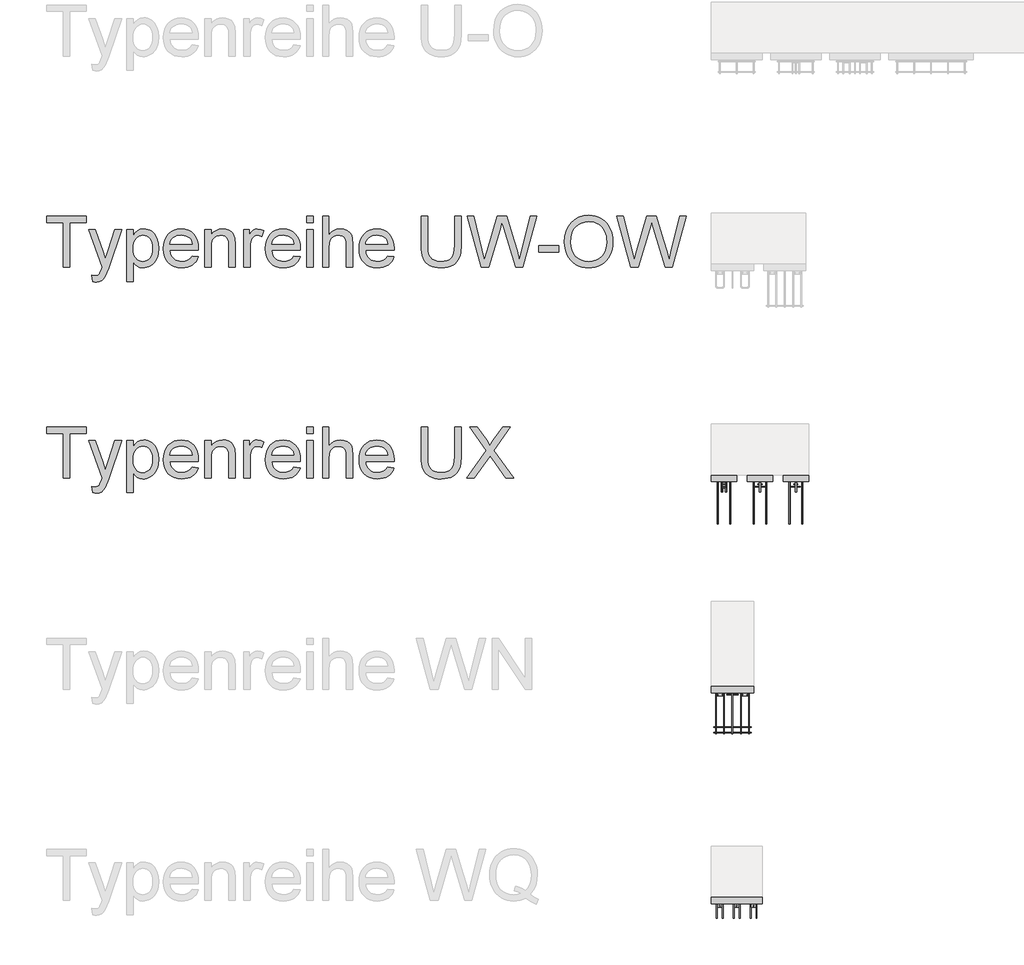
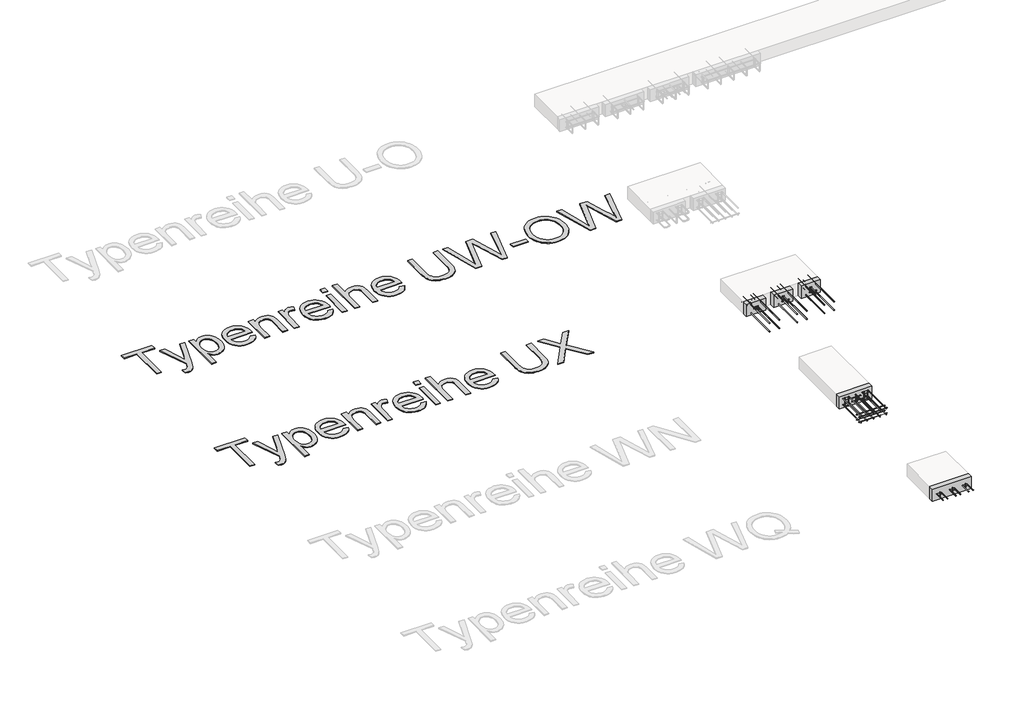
# Not in any storey, part 2 of 7: 7 proxies.
"""IFC4 building model written with IfcOpenShell, lengths in millimetres."""

from ifc_helpers import new_model, si_unit, origin, origin_with_axes, place, context, project, spatial, polyline, outline, extrude, transform, mapped, element, save
from components import uxh_c58978f4, uxq_d90d2bab, uxv_ace92e51, wn_ae22b578, sb_80aecc08

model = new_model("IFC4")

# Units and contexts
model_context = context("Model", 3, world=origin())
ifc_project = project(units=[si_unit("LENGTHUNIT", "METRE", prefix="MILLI")], contexts=[model_context])

# Site, building
site = spatial("IfcSite", under=ifc_project)
building = spatial("IfcBuilding", under=site)

# Proxies
placement = place(None, origin())
element("IfcBuildingElementProxy", 1, Name="600mm Arial", ObjectType="600mm Arial", at=placement, inside=building, context=model_context, shape_type="SweptSolid", body=[
    extrude(outline(polyline([(2216.6089188, 9553.4767112), (2216.6089188, 10080.8723395), (2018.8355582, 10080.8723395), (2018.8355582, 10156.2145721), (2489.724512, 10156.2145721), (2489.724512, 10080.8723395), (2291.9511514, 10080.8723395), (2291.9511514, 9553.4767112), (2216.6089188, 9553.4767112)])), origin_with_axes(), (0.0, 0.0, 1.0), 10.0),
    extrude(outline(polyline([(2565.0667446, 9383.9566879), (2555.6489655, 9456.5030173), (2593.908693, 9449.8811414), (2614.0318381, 9451.9596747), (2629.6668229, 9458.1952745), (2641.843717, 9468.1464825), (2651.5925899, 9481.3718402), (2672.1939816, 9536.8484451), (2678.0800935, 9555.095392), (2517.9778492, 9996.1123278), (2597.4403602, 9996.1123278), (2682.3475247, 9750.3671551), (2711.9252371, 9652.0690859), (2741.5029495, 9738.8892368), (2828.7645587, 9996.1123278), (2907.6384585, 9996.1123278), (2753.5694789, 9542.8817098), (2713.5439178, 9444.5836407), (2693.0528907, 9413.2033065), (2669.8395368, 9391.4614806), (2642.8737866, 9378.7695517), (2611.1255704, 9374.5389088), (2589.3101681, 9376.8933535), (2565.0667446, 9383.9566879)])), origin_with_axes(), (0.0, 0.0, 1.0), 10.0),
    extrude(outline(polyline([(2970.0312449, 9383.9566879), (2970.0312449, 9996.1123278), (3045.3734775, 9996.1123278), (3045.3734775, 9922.2416232), (3069.9479948, 9958.6803348), (3097.465568, 9984.707986), (3129.544878, 10000.3245767), (3167.8046055, 10005.5301069), (3194.080577, 10003.709091), (3218.7562618, 9998.2460434), (3241.83166, 9989.140964), (3263.3067714, 9976.3938529), (3282.7125467, 9960.3358038), (3299.5799362, 9941.2979105), (3313.9089399, 9919.2801731), (3325.6995578, 9894.2825916), (3341.4816954, 9838.7691985), (3346.7424079, 9778.1790339), (3340.8011137, 9713.7445024), (3333.3744959, 9684.079418), (3322.9772311, 9656.1157879), (3309.7518733, 9630.5847774), (3293.840977, 9608.2175521), (3275.2445422, 9589.014112), (3253.9625688, 9572.974457), (3231.0389219, 9560.3239149), (3207.5174669, 9551.2878134), (3183.3982036, 9545.8661525), (3158.681132, 9544.0589322), (3124.0450422, 9548.8965804), (3093.1245605, 9563.4095251), (3066.6554509, 9585.3168979), (3045.3734775, 9612.3378305), (3045.3734775, 9383.9566879), (2970.0312449, 9383.9566879)]), holes=[polyline([(3045.3734775, 9771.2628524), (3047.410624, 9734.9528995), (3053.5220637, 9703.7197181), (3063.7077964, 9677.5633082), (3077.9678223, 9656.4836699), (3095.1341159, 9640.2600739), (3114.0386519, 9628.671791), (3134.6814303, 9621.7188213), (3157.0624512, 9619.4011648), (3179.7653689, 9621.8015948), (3200.7852264, 9629.0028848), (3220.1220237, 9641.0050349), (3237.775761, 9657.8080451), (3252.4864423, 9679.6510385), (3262.9940717, 9706.7731386), (3269.2986494, 9739.1743453), (3271.4001753, 9776.8546587), (3269.3492332, 9812.8519119), (3263.1964068, 9844.029911), (3252.9416962, 9870.388656), (3238.5851014, 9891.9281468), (3221.377421, 9908.6667776), (3202.569454, 9920.6229424), (3182.1612004, 9927.7966413), (3160.15266, 9930.1878743), (3138.2130975, 9927.64489), (3117.570319, 9920.0159371), (3098.2243246, 9907.3010157), (3080.1751142, 9889.5001256), (3064.9493982, 9866.8523903), (3054.0738867, 9839.596933), (3047.5485798, 9807.7337537), (3045.3734775, 9771.2628524)])]), origin_with_axes(), (0.0, 0.0, 1.0), 10.0),
    extrude(outline(polyline([(3741.4062124, 9685.3256183), (3815.276917, 9675.9078392), (3803.9507501, 9646.3209298), (3788.6606546, 9620.2472934), (3769.4066307, 9597.68693), (3746.1886783, 9578.6398397), (3719.2459207, 9563.5106927), (3688.8174812, 9552.704159), (3654.9033597, 9546.2202389), (3617.5035564, 9544.0589322), (3570.7549519, 9547.7883359), (3529.101513, 9558.9765471), (3492.5432397, 9577.6235657), (3461.080132, 9603.7293918), (3435.7790478, 9636.5674584), (3417.7068448, 9675.4111985), (3406.863523, 9720.2606123), (3403.2490824, 9771.1156996), (3406.9003112, 9823.6952337), (3417.8539976, 9870.0391681), (3436.1101416, 9910.1475026), (3461.6687432, 9944.0202373), (3493.0490774, 9970.9308053), (3528.7704192, 9990.1526395), (3568.8327684, 10001.6857401), (3613.2361252, 10005.5301069), (3656.2093408, 10001.6949371), (3695.0714751, 9990.1894277), (3729.822528, 9971.0135787), (3760.4624997, 9944.1673901), (3785.4738769, 9910.3682318), (3803.3391463, 9870.3334737), (3814.0583079, 9824.0631157), (3817.6313618, 9771.557158), (3817.1899034, 9751.2500718), (3478.591315, 9751.2500718), (3482.9553152, 9721.1849158), (3491.6327317, 9694.853762), (3504.6235647, 9672.2566104), (3521.927814, 9653.3934611), (3542.5889866, 9638.5218315), (3565.6505892, 9627.8992389), (3591.1126218, 9621.5256833), (3618.9750844, 9619.4011648), (3659.0742218, 9623.3375021), (3692.845789, 9635.1465142), (3720.2897858, 9655.5639649), (3741.4062124, 9685.3256183)]), holes=[polyline([(3478.591315, 9826.5923045), (3742.2891292, 9826.5923045), (3732.0987979, 9866.3971363), (3723.3340094, 9882.0505152), (3712.1228056, 9894.8712028), (3691.5765961, 9910.3222466), (3668.1976953, 9921.3587064), (3641.9861032, 9927.9805823), (3612.9418197, 9930.1878743), (3586.4497175, 9928.4266392), (3562.1557102, 9923.1429341), (3540.0597979, 9914.3367588), (3520.1619805, 9902.0081135), (3503.4647364, 9886.7272151), (3490.9705442, 9869.0642808), (3482.6794037, 9849.0193106), (3478.591315, 9826.5923045)])]), origin_with_axes(), (0.0, 0.0, 1.0), 10.0),
    extrude(outline(polyline([(3892.9735944, 9553.4767112), (3892.9735944, 9996.1123278), (3968.315827, 9996.1123278), (3968.315827, 9934.3081526), (3994.490631, 9965.4677576), (4025.9261474, 9987.7246183), (4062.6223765, 10001.0787348), (4104.579318, 10005.5301069), (4141.7170054, 10001.9432575), (4175.7276959, 9991.1827091), (4204.0913977, 9974.5912311), (4224.2881192, 9953.5115928), (4237.9917236, 9927.9989764), (4246.8760737, 9898.1085643), (4250.8491993, 9825.2679293), (4250.8491993, 9553.4767112), (4175.5069667, 9553.4767112), (4175.5069667, 9815.1143862), (4173.3364629, 9854.0730895), (4166.8249516, 9881.7746037), (4154.8136044, 9901.6218374), (4136.1435932, 9917.0176989), (4112.2128694, 9926.8953304), (4084.4193847, 9930.1878743), (4061.5417231, 9928.3392673), (4040.2919394, 9922.7934462), (4020.6700334, 9913.5504111), (4002.6760053, 9900.6101619), (3987.6434273, 9882.5011707), (3976.9058716, 9857.7519094), (3970.4633381, 9826.3623782), (3968.315827, 9788.332577), (3968.315827, 9553.4767112), (3892.9735944, 9553.4767112)])), origin_with_axes(), (0.0, 0.0, 1.0), 10.0),
    extrude(outline(polyline([(4354.4447691, 9553.4767112), (4354.4447691, 9996.1123278), (4420.3692227, 9996.1123278), (4420.3692227, 9930.6293327), (4444.7230107, 9968.5947546), (4467.1638125, 9990.9619799), (4489.6781906, 10001.8880752), (4514.2527078, 10005.5301069), (4551.7766713, 9999.7175714), (4589.889246, 9982.2799648), (4564.7261176, 9914.7368305), (4538.2386139, 9926.3251133), (4511.7511103, 9930.1878743), (4489.2551263, 9926.4722661), (4469.1503752, 9915.3254417), (4452.9083851, 9897.5935295), (4442.000684, 9874.1226582), (4432.8404223, 9832.036958), (4429.7870017, 9786.125285), (4429.7870017, 9553.4767112), (4354.4447691, 9553.4767112)])), origin_with_axes(), (0.0, 0.0, 1.0), 10.0),
    extrude(outline(polyline([(4946.8819342, 9685.3256183), (5020.7526388, 9675.9078392), (5009.4264719, 9646.3209298), (4994.1363764, 9620.2472934), (4974.8823525, 9597.68693), (4951.6644001, 9578.6398397), (4924.7216425, 9563.5106927), (4894.293203, 9552.704159), (4860.3790815, 9546.2202389), (4822.9792782, 9544.0589322), (4776.2306737, 9547.7883359), (4734.5772347, 9558.9765471), (4698.0189615, 9577.6235657), (4666.5558538, 9603.7293918), (4641.2547696, 9636.5674584), (4623.1825666, 9675.4111985), (4612.3392448, 9720.2606123), (4608.7248042, 9771.1156996), (4612.376033, 9823.6952337), (4623.3297194, 9870.0391681), (4641.5858634, 9910.1475026), (4667.144465, 9944.0202373), (4698.5247992, 9970.9308053), (4734.246141, 9990.1526395), (4774.3084902, 10001.6857401), (4818.711847, 10005.5301069), (4861.6850626, 10001.6949371), (4900.5471969, 9990.1894277), (4935.2982498, 9971.0135787), (4965.9382215, 9944.1673901), (4990.9495987, 9910.3682318), (5008.8148681, 9870.3334737), (5019.5340297, 9824.0631157), (5023.1070836, 9771.557158), (5022.6656252, 9751.2500718), (4684.0670368, 9751.2500718), (4688.431037, 9721.1849158), (4697.1084535, 9694.853762), (4710.0992865, 9672.2566104), (4727.4035358, 9653.3934611), (4748.0647084, 9638.5218315), (4771.126311, 9627.8992389), (4796.5883436, 9621.5256833), (4824.4508062, 9619.4011648), (4864.5499436, 9623.3375021), (4898.3215108, 9635.1465142), (4925.7655076, 9655.5639649), (4946.8819342, 9685.3256183)]), holes=[polyline([(4684.0670368, 9826.5923045), (4947.764851, 9826.5923045), (4937.5745197, 9866.3971363), (4928.8097312, 9882.0505152), (4917.5985273, 9894.8712028), (4897.0523179, 9910.3222466), (4873.6734171, 9921.3587064), (4847.461825, 9927.9805823), (4818.4175414, 9930.1878743), (4791.9254393, 9928.4266392), (4767.631432, 9923.1429341), (4745.5355197, 9914.3367588), (4725.6377023, 9902.0081135), (4708.9404582, 9886.7272151), (4696.4462659, 9869.0642808), (4688.1551255, 9849.0193106), (4684.0670368, 9826.5923045)])]), origin_with_axes(), (0.0, 0.0, 1.0), 10.0),
    extrude(outline(polyline([(5098.4493162, 10080.8723395), (5098.4493162, 10156.2145721), (5173.7915488, 10156.2145721), (5173.7915488, 10080.8723395), (5098.4493162, 10080.8723395)])), origin_with_axes(), (0.0, 0.0, 1.0), 10.0),
    extrude(outline(polyline([(5098.4493162, 9553.4767112), (5098.4493162, 9996.1123278), (5173.7915488, 9996.1123278), (5173.7915488, 9553.4767112), (5098.4493162, 9553.4767112)])), origin_with_axes(), (0.0, 0.0, 1.0), 10.0),
    extrude(outline(polyline([(5286.8048977, 9553.4767112), (5286.8048977, 10156.2145721), (5362.1471303, 10156.2145721), (5362.1471303, 9934.6024582), (5389.8210534, 9965.6333045), (5420.8978849, 9987.7981947), (5455.3776249, 10001.0971289), (5493.2602734, 10005.5301069), (5538.7672762, 10000.6924587), (5577.8731323, 9986.179514), (5608.6648553, 9963.131707), (5629.2294588, 9932.6894719), (5640.8177417, 9890.861289), (5644.6805026, 9833.6556388), (5644.6805026, 9553.4767112), (5569.33827, 9553.4767112), (5569.33827, 9825.8565405), (5567.8391509, 9851.2955804), (5563.3417935, 9873.0190122), (5555.8461978, 9891.0268359), (5545.3523639, 9905.3190514), (5532.1086121, 9916.1991614), (5516.3632627, 9923.9706686), (5498.1163157, 9928.6335729), (5477.3677712, 9930.1878743), (5445.5275845, 9925.9940195), (5415.6371724, 9913.4124553), (5390.8787141, 9893.6571922), (5374.434389, 9867.9422407), (5365.218945, 9833.7660034), (5362.1471303, 9788.6268826), (5362.1471303, 9553.4767112), (5286.8048977, 9553.4767112)])), origin_with_axes(), (0.0, 0.0, 1.0), 10.0),
    extrude(outline(polyline([(6058.1798652, 9685.3256183), (6132.0505698, 9675.9078392), (6120.7244029, 9646.3209298), (6105.4343075, 9620.2472934), (6086.1802836, 9597.68693), (6062.9623311, 9578.6398397), (6036.0195735, 9563.5106927), (6005.591134, 9552.704159), (5971.6770126, 9546.2202389), (5934.2772092, 9544.0589322), (5887.5286047, 9547.7883359), (5845.8751658, 9558.9765471), (5809.3168925, 9577.6235657), (5777.8537849, 9603.7293918), (5752.5527007, 9636.5674584), (5734.4804976, 9675.4111985), (5723.6371758, 9720.2606123), (5720.0227352, 9771.1156996), (5723.673964, 9823.6952337), (5734.6276504, 9870.0391681), (5752.8837944, 9910.1475026), (5778.4423961, 9944.0202373), (5809.8227303, 9970.9308053), (5845.544072, 9990.1526395), (5885.6064213, 10001.6857401), (5930.0097781, 10005.5301069), (5972.9829936, 10001.6949371), (6011.8451279, 9990.1894277), (6046.5961809, 9971.0135787), (6077.2361525, 9944.1673901), (6102.2475297, 9910.3682318), (6120.1127991, 9870.3334737), (6130.8319607, 9824.0631157), (6134.4050146, 9771.557158), (6133.9635562, 9751.2500718), (5795.3649678, 9751.2500718), (5799.728968, 9721.1849158), (5808.4063846, 9694.853762), (5821.3972175, 9672.2566104), (5838.7014669, 9653.3934611), (5859.3626394, 9638.5218315), (5882.424242, 9627.8992389), (5907.8862746, 9621.5256833), (5935.7487372, 9619.4011648), (5975.8478747, 9623.3375021), (6009.6194418, 9635.1465142), (6037.0634387, 9655.5639649), (6058.1798652, 9685.3256183)]), holes=[polyline([(5795.3649678, 9826.5923045), (6059.062782, 9826.5923045), (6048.8724507, 9866.3971363), (6040.1076622, 9882.0505152), (6028.8964584, 9894.8712028), (6008.3502489, 9910.3222466), (5984.9713482, 9921.3587064), (5958.759756, 9927.9805823), (5929.7154725, 9930.1878743), (5903.2233703, 9928.4266392), (5878.929363, 9923.1429341), (5856.8334507, 9914.3367588), (5836.9356333, 9902.0081135), (5820.2383892, 9886.7272151), (5807.744197, 9869.0642808), (5799.4530565, 9849.0193106), (5795.3649678, 9826.5923045)])]), origin_with_axes(), (0.0, 0.0, 1.0), 10.0),
    extrude(outline(polyline([(6850.1562244, 10156.2145721), (6925.498457, 10156.2145721), (6925.498457, 9808.4925103), (6920.3848973, 9727.0618307), (6913.9929476, 9693.3684384), (6905.0442181, 9664.3563446), (6892.7661565, 9638.9265017), (6876.3862107, 9615.9798622), (6855.9043806, 9595.5164262), (6831.3206663, 9577.5361937), (6802.6074765, 9562.8898918), (6769.7372203, 9552.4282475), (6732.7098975, 9546.151261), (6691.5255081, 9544.0589322), (6651.3573927, 9545.879948), (6615.0244472, 9551.3429957), (6582.5266714, 9560.448075), (6553.8640655, 9573.1951862), (6529.0320308, 9589.3957895), (6508.0259689, 9608.8613456), (6490.8458797, 9631.5918544), (6477.4917633, 9657.5873159), (6467.4807745, 9687.7398439), (6460.3300682, 9722.9415523), (6456.0396445, 9763.1924411), (6454.6095032, 9808.4925103), (6454.6095032, 10156.2145721), (6529.9517358, 10156.2145721), (6529.9517358, 9811.1412607), (6533.667344, 9743.4325794), (6544.8141684, 9696.2885018), (6553.5789569, 9678.910676), (6565.0108899, 9663.6389747), (6579.1099674, 9650.4733978), (6595.8761893, 9639.4139453), (6636.1224796, 9624.4043599), (6684.4621738, 9619.4011648), (6725.986854, 9621.8751712), (6761.0919934, 9629.2971904), (6789.777592, 9641.6672225), (6812.0436497, 9658.9852674), (6828.7179011, 9683.3390555), (6840.6280807, 9716.8163171), (6847.7741885, 9759.4170521), (6850.1562244, 9811.1412607), (6850.1562244, 10156.2145721)])), origin_with_axes(), (0.0, 0.0, 1.0), 10.0),
    extrude(outline(polyline([(7165.2103651, 9553.4767112), (7000.8406896, 10156.2145721), (7078.537367, 10156.2145721), (7173.8923802, 9760.0792397), (7203.3229398, 9637.7952645), (7234.8136386, 9745.9525711), (7354.3017106, 10156.2145721), (7466.2849899, 10156.2145721), (7553.1051408, 9858.8187672), (7590.2980105, 9748.4541687), (7617.7052191, 9637.7952645), (7646.252862, 9756.5475726), (7742.4907919, 10156.2145721), (7820.1874693, 10156.2145721), (7655.670641, 9553.4767112), (7575.1780605, 9553.4767112), (7430.6740128, 10018.4795531), (7410.5140795, 10083.3739371), (7387.8525486, 10005.2358013), (7256.1507943, 9553.4767112), (7165.2103651, 9553.4767112)])), origin_with_axes(), (0.0, 0.0, 1.0), 10.0),
    extrude(outline(polyline([(7848.4408065, 9732.4145137), (7848.4408065, 9807.7567463), (8083.8852834, 9807.7567463), (8083.8852834, 9732.4145137), (7848.4408065, 9732.4145137)])), origin_with_axes(), (0.0, 0.0, 1.0), 10.0),
    extrude(outline(polyline([(8149.809737, 9846.8993906), (8154.8313262, 9917.597113), (8169.8960939, 9980.1830374), (8195.0040401, 10034.6571639), (8211.3242051, 10058.8523028), (8230.1551647, 10081.0194923), (8273.2433434, 10118.0376181), (8322.1624517, 10144.4791365), (8376.9124896, 10160.3440475), (8437.4934572, 10165.6323512), (8478.0432501, 10163.1491477), (8516.551298, 10155.6995373), (8553.0176007, 10143.28352), (8587.4421584, 10125.9010957), (8618.8592808, 10104.0764964), (8646.3032777, 10078.3339538), (8669.774149, 10048.6734679), (8689.2718947, 10015.0950388), (8704.5941798, 9978.3620216), (8715.5386692, 9939.2377714), (8722.1053628, 9897.7222882), (8724.2942606, 9853.8155721), (8721.9903996, 9809.3294418), (8715.0788167, 9767.2529386), (8703.5595117, 9727.5860625), (8687.4324847, 9690.3288134), (8667.0794133, 9656.4652758), (8642.8819751, 9626.9795339), (8614.84017, 9601.8715877), (8582.9539981, 9581.1414373), (8548.4788566, 9564.9178413), (8512.6701429, 9553.3295584), (8475.527857, 9546.3765887), (8437.0519988, 9544.0589322), (8395.794033, 9546.6203105), (8356.7801475, 9554.3044457), (8320.010342, 9567.1113377), (8285.4846168, 9585.0409864), (8254.1042826, 9607.3990147), (8226.7706504, 9633.4910452), (8203.4837201, 9663.3170779), (8184.2434917, 9696.877113), (8169.178724, 9732.8237824), (8158.4181757, 9769.8097185), (8151.9618466, 9807.8349212), (8149.809737, 9846.8993906)]), holes=[polyline([(8225.1519696, 9846.1636266), (8228.9181615, 9796.2144487), (8240.2167373, 9751.8754712), (8259.0476969, 9713.1466942), (8285.4110404, 9680.0281176), (8317.4581607, 9653.5038257), (8353.3404508, 9634.557903), (8393.0579107, 9623.1903493), (8436.6105404, 9619.4011648), (8480.9081312, 9623.2271375), (8521.0946406, 9634.7050558), (8557.1700688, 9653.8349195), (8589.1344156, 9680.6167288), (8615.304621, 9714.4342812), (8633.9976249, 9754.6713744), (8645.2134273, 9801.3280084), (8648.952028, 9854.4041833), (8647.3517413, 9888.8839233), (8642.5508813, 9921.101189), (8634.5494479, 9951.0559805), (8623.3474412, 9978.7482977), (8609.0690212, 10003.8148571), (8591.8383483, 10025.8923753), (8571.6554223, 10044.9808524), (8548.5202433, 10061.0802882), (8523.1501813, 10073.859589), (8496.2626059, 10082.987661), (8467.8575174, 10088.4645042), (8437.9349156, 10090.2901186), (8395.8952006, 10086.772247), (8356.8905121, 10076.2186323), (8320.92085, 10058.6292744), (8287.9862144, 10034.0041733), (8260.4962323, 10001.1569097), (8240.8605308, 9958.901064), (8229.0791099, 9907.2366363), (8225.1519696, 9846.1636266)])]), origin_with_axes(), (0.0, 0.0, 1.0), 10.0),
    extrude(outline(polyline([(8935.7528315, 9553.4767112), (8771.383156, 10156.2145721), (8849.0798334, 10156.2145721), (8944.4348466, 9760.0792397), (8973.8654062, 9637.7952645), (9005.356105, 9745.9525711), (9124.844177, 10156.2145721), (9236.8274563, 10156.2145721), (9323.6476072, 9858.8187672), (9360.8404769, 9748.4541687), (9388.2476855, 9637.7952645), (9416.7953284, 9756.5475726), (9513.0332583, 10156.2145721), (9590.7299357, 10156.2145721), (9426.2131074, 9553.4767112), (9345.7205269, 9553.4767112), (9201.2164792, 10018.4795531), (9181.0565459, 10083.3739371), (9158.3950149, 10005.2358013), (9026.6932607, 9553.4767112), (8935.7528315, 9553.4767112)])), origin_with_axes(), (0.0, 0.0, 1.0), 10.0),
])
element("IfcBuildingElementProxy", 2, Name="600mm Arial", ObjectType="600mm Arial", at=placement, inside=building, context=model_context, shape_type="SweptSolid", body=[
    extrude(outline(polyline([(2216.6089188, 7053.4767112), (2216.6089188, 7580.8723395), (2018.8355582, 7580.8723395), (2018.8355582, 7656.2145721), (2489.724512, 7656.2145721), (2489.724512, 7580.8723395), (2291.9511514, 7580.8723395), (2291.9511514, 7053.4767112), (2216.6089188, 7053.4767112)])), origin_with_axes(), (0.0, 0.0, 1.0), 10.0),
    extrude(outline(polyline([(2565.0667446, 6883.9566879), (2555.6489655, 6956.5030173), (2593.908693, 6949.8811414), (2614.0318381, 6951.9596747), (2629.6668229, 6958.1952745), (2641.843717, 6968.1464825), (2651.5925899, 6981.3718402), (2672.1939816, 7036.8484451), (2678.0800935, 7055.095392), (2517.9778492, 7496.1123278), (2597.4403602, 7496.1123278), (2682.3475247, 7250.3671551), (2711.9252371, 7152.0690859), (2741.5029495, 7238.8892368), (2828.7645587, 7496.1123278), (2907.6384585, 7496.1123278), (2753.5694789, 7042.8817098), (2713.5439178, 6944.5836407), (2693.0528907, 6913.2033065), (2669.8395368, 6891.4614806), (2642.8737866, 6878.7695517), (2611.1255704, 6874.5389088), (2589.3101681, 6876.8933535), (2565.0667446, 6883.9566879)])), origin_with_axes(), (0.0, 0.0, 1.0), 10.0),
    extrude(outline(polyline([(2970.0312449, 6883.9566879), (2970.0312449, 7496.1123278), (3045.3734775, 7496.1123278), (3045.3734775, 7422.2416232), (3069.9479948, 7458.6803348), (3097.465568, 7484.707986), (3129.544878, 7500.3245767), (3167.8046055, 7505.5301069), (3194.080577, 7503.709091), (3218.7562618, 7498.2460434), (3241.83166, 7489.140964), (3263.3067714, 7476.3938529), (3282.7125467, 7460.3358038), (3299.5799362, 7441.2979105), (3313.9089399, 7419.2801731), (3325.6995578, 7394.2825916), (3341.4816954, 7338.7691985), (3346.7424079, 7278.1790339), (3340.8011137, 7213.7445024), (3333.3744959, 7184.079418), (3322.9772311, 7156.1157879), (3309.7518733, 7130.5847774), (3293.840977, 7108.2175521), (3275.2445422, 7089.014112), (3253.9625688, 7072.974457), (3231.0389219, 7060.3239149), (3207.5174669, 7051.2878134), (3183.3982036, 7045.8661525), (3158.681132, 7044.0589322), (3124.0450422, 7048.8965804), (3093.1245605, 7063.4095251), (3066.6554509, 7085.3168979), (3045.3734775, 7112.3378305), (3045.3734775, 6883.9566879), (2970.0312449, 6883.9566879)]), holes=[polyline([(3045.3734775, 7271.2628524), (3047.410624, 7234.9528995), (3053.5220637, 7203.7197181), (3063.7077964, 7177.5633082), (3077.9678223, 7156.4836699), (3095.1341159, 7140.2600739), (3114.0386519, 7128.671791), (3134.6814303, 7121.7188213), (3157.0624512, 7119.4011648), (3179.7653689, 7121.8015948), (3200.7852264, 7129.0028848), (3220.1220237, 7141.0050349), (3237.775761, 7157.8080451), (3252.4864423, 7179.6510385), (3262.9940717, 7206.7731386), (3269.2986494, 7239.1743453), (3271.4001753, 7276.8546587), (3269.3492332, 7312.8519119), (3263.1964068, 7344.029911), (3252.9416962, 7370.388656), (3238.5851014, 7391.9281468), (3221.377421, 7408.6667776), (3202.569454, 7420.6229424), (3182.1612004, 7427.7966413), (3160.15266, 7430.1878743), (3138.2130975, 7427.64489), (3117.570319, 7420.0159371), (3098.2243246, 7407.3010157), (3080.1751142, 7389.5001256), (3064.9493982, 7366.8523903), (3054.0738867, 7339.596933), (3047.5485798, 7307.7337537), (3045.3734775, 7271.2628524)])]), origin_with_axes(), (0.0, 0.0, 1.0), 10.0),
    extrude(outline(polyline([(3741.4062124, 7185.3256183), (3815.276917, 7175.9078392), (3803.9507501, 7146.3209298), (3788.6606546, 7120.2472934), (3769.4066307, 7097.68693), (3746.1886783, 7078.6398397), (3719.2459207, 7063.5106927), (3688.8174812, 7052.704159), (3654.9033597, 7046.2202389), (3617.5035564, 7044.0589322), (3570.7549519, 7047.7883359), (3529.101513, 7058.9765471), (3492.5432397, 7077.6235657), (3461.080132, 7103.7293918), (3435.7790478, 7136.5674584), (3417.7068448, 7175.4111985), (3406.863523, 7220.2606123), (3403.2490824, 7271.1156996), (3406.9003112, 7323.6952337), (3417.8539976, 7370.0391681), (3436.1101416, 7410.1475026), (3461.6687432, 7444.0202373), (3493.0490774, 7470.9308053), (3528.7704192, 7490.1526395), (3568.8327684, 7501.6857401), (3613.2361252, 7505.5301069), (3656.2093408, 7501.6949371), (3695.0714751, 7490.1894277), (3729.822528, 7471.0135787), (3760.4624997, 7444.1673901), (3785.4738769, 7410.3682318), (3803.3391463, 7370.3334737), (3814.0583079, 7324.0631157), (3817.6313618, 7271.557158), (3817.1899034, 7251.2500718), (3478.591315, 7251.2500718), (3482.9553152, 7221.1849158), (3491.6327317, 7194.853762), (3504.6235647, 7172.2566104), (3521.927814, 7153.3934611), (3542.5889866, 7138.5218315), (3565.6505892, 7127.8992389), (3591.1126218, 7121.5256833), (3618.9750844, 7119.4011648), (3659.0742218, 7123.3375021), (3692.845789, 7135.1465142), (3720.2897858, 7155.5639649), (3741.4062124, 7185.3256183)]), holes=[polyline([(3478.591315, 7326.5923045), (3742.2891292, 7326.5923045), (3732.0987979, 7366.3971363), (3723.3340094, 7382.0505152), (3712.1228056, 7394.8712028), (3691.5765961, 7410.3222466), (3668.1976953, 7421.3587064), (3641.9861032, 7427.9805823), (3612.9418197, 7430.1878743), (3586.4497175, 7428.4266392), (3562.1557102, 7423.1429341), (3540.0597979, 7414.3367588), (3520.1619805, 7402.0081135), (3503.4647364, 7386.7272151), (3490.9705442, 7369.0642808), (3482.6794037, 7349.0193106), (3478.591315, 7326.5923045)])]), origin_with_axes(), (0.0, 0.0, 1.0), 10.0),
    extrude(outline(polyline([(3892.9735944, 7053.4767112), (3892.9735944, 7496.1123278), (3968.315827, 7496.1123278), (3968.315827, 7434.3081526), (3994.490631, 7465.4677576), (4025.9261474, 7487.7246183), (4062.6223765, 7501.0787348), (4104.579318, 7505.5301069), (4141.7170054, 7501.9432575), (4175.7276959, 7491.1827091), (4204.0913977, 7474.5912311), (4224.2881192, 7453.5115928), (4237.9917236, 7427.9989764), (4246.8760737, 7398.1085643), (4250.8491993, 7325.2679293), (4250.8491993, 7053.4767112), (4175.5069667, 7053.4767112), (4175.5069667, 7315.1143862), (4173.3364629, 7354.0730895), (4166.8249516, 7381.7746037), (4154.8136044, 7401.6218374), (4136.1435932, 7417.0176989), (4112.2128694, 7426.8953304), (4084.4193847, 7430.1878743), (4061.5417231, 7428.3392673), (4040.2919394, 7422.7934462), (4020.6700334, 7413.5504111), (4002.6760053, 7400.6101619), (3987.6434273, 7382.5011707), (3976.9058716, 7357.7519094), (3970.4633381, 7326.3623782), (3968.315827, 7288.332577), (3968.315827, 7053.4767112), (3892.9735944, 7053.4767112)])), origin_with_axes(), (0.0, 0.0, 1.0), 10.0),
    extrude(outline(polyline([(4354.4447691, 7053.4767112), (4354.4447691, 7496.1123278), (4420.3692227, 7496.1123278), (4420.3692227, 7430.6293327), (4444.7230107, 7468.5947546), (4467.1638125, 7490.9619799), (4489.6781906, 7501.8880752), (4514.2527078, 7505.5301069), (4551.7766713, 7499.7175714), (4589.889246, 7482.2799648), (4564.7261176, 7414.7368305), (4538.2386139, 7426.3251133), (4511.7511103, 7430.1878743), (4489.2551263, 7426.4722661), (4469.1503752, 7415.3254417), (4452.9083851, 7397.5935295), (4442.000684, 7374.1226582), (4432.8404223, 7332.036958), (4429.7870017, 7286.125285), (4429.7870017, 7053.4767112), (4354.4447691, 7053.4767112)])), origin_with_axes(), (0.0, 0.0, 1.0), 10.0),
    extrude(outline(polyline([(4946.8819342, 7185.3256183), (5020.7526388, 7175.9078392), (5009.4264719, 7146.3209298), (4994.1363764, 7120.2472934), (4974.8823525, 7097.68693), (4951.6644001, 7078.6398397), (4924.7216425, 7063.5106927), (4894.293203, 7052.704159), (4860.3790815, 7046.2202389), (4822.9792782, 7044.0589322), (4776.2306737, 7047.7883359), (4734.5772347, 7058.9765471), (4698.0189615, 7077.6235657), (4666.5558538, 7103.7293918), (4641.2547696, 7136.5674584), (4623.1825666, 7175.4111985), (4612.3392448, 7220.2606123), (4608.7248042, 7271.1156996), (4612.376033, 7323.6952337), (4623.3297194, 7370.0391681), (4641.5858634, 7410.1475026), (4667.144465, 7444.0202373), (4698.5247992, 7470.9308053), (4734.246141, 7490.1526395), (4774.3084902, 7501.6857401), (4818.711847, 7505.5301069), (4861.6850626, 7501.6949371), (4900.5471969, 7490.1894277), (4935.2982498, 7471.0135787), (4965.9382215, 7444.1673901), (4990.9495987, 7410.3682318), (5008.8148681, 7370.3334737), (5019.5340297, 7324.0631157), (5023.1070836, 7271.557158), (5022.6656252, 7251.2500718), (4684.0670368, 7251.2500718), (4688.431037, 7221.1849158), (4697.1084535, 7194.853762), (4710.0992865, 7172.2566104), (4727.4035358, 7153.3934611), (4748.0647084, 7138.5218315), (4771.126311, 7127.8992389), (4796.5883436, 7121.5256833), (4824.4508062, 7119.4011648), (4864.5499436, 7123.3375021), (4898.3215108, 7135.1465142), (4925.7655076, 7155.5639649), (4946.8819342, 7185.3256183)]), holes=[polyline([(4684.0670368, 7326.5923045), (4947.764851, 7326.5923045), (4937.5745197, 7366.3971363), (4928.8097312, 7382.0505152), (4917.5985273, 7394.8712028), (4897.0523179, 7410.3222466), (4873.6734171, 7421.3587064), (4847.461825, 7427.9805823), (4818.4175414, 7430.1878743), (4791.9254393, 7428.4266392), (4767.631432, 7423.1429341), (4745.5355197, 7414.3367588), (4725.6377023, 7402.0081135), (4708.9404582, 7386.7272151), (4696.4462659, 7369.0642808), (4688.1551255, 7349.0193106), (4684.0670368, 7326.5923045)])]), origin_with_axes(), (0.0, 0.0, 1.0), 10.0),
    extrude(outline(polyline([(5098.4493162, 7580.8723395), (5098.4493162, 7656.2145721), (5173.7915488, 7656.2145721), (5173.7915488, 7580.8723395), (5098.4493162, 7580.8723395)])), origin_with_axes(), (0.0, 0.0, 1.0), 10.0),
    extrude(outline(polyline([(5098.4493162, 7053.4767112), (5098.4493162, 7496.1123278), (5173.7915488, 7496.1123278), (5173.7915488, 7053.4767112), (5098.4493162, 7053.4767112)])), origin_with_axes(), (0.0, 0.0, 1.0), 10.0),
    extrude(outline(polyline([(5286.8048977, 7053.4767112), (5286.8048977, 7656.2145721), (5362.1471303, 7656.2145721), (5362.1471303, 7434.6024582), (5389.8210534, 7465.6333045), (5420.8978849, 7487.7981947), (5455.3776249, 7501.0971289), (5493.2602734, 7505.5301069), (5538.7672762, 7500.6924587), (5577.8731323, 7486.179514), (5608.6648553, 7463.131707), (5629.2294588, 7432.6894719), (5640.8177417, 7390.861289), (5644.6805026, 7333.6556388), (5644.6805026, 7053.4767112), (5569.33827, 7053.4767112), (5569.33827, 7325.8565405), (5567.8391509, 7351.2955804), (5563.3417935, 7373.0190122), (5555.8461978, 7391.0268359), (5545.3523639, 7405.3190514), (5532.1086121, 7416.1991614), (5516.3632627, 7423.9706686), (5498.1163157, 7428.6335729), (5477.3677712, 7430.1878743), (5445.5275845, 7425.9940195), (5415.6371724, 7413.4124553), (5390.8787141, 7393.6571922), (5374.434389, 7367.9422407), (5365.218945, 7333.7660034), (5362.1471303, 7288.6268826), (5362.1471303, 7053.4767112), (5286.8048977, 7053.4767112)])), origin_with_axes(), (0.0, 0.0, 1.0), 10.0),
    extrude(outline(polyline([(6058.1798652, 7185.3256183), (6132.0505698, 7175.9078392), (6120.7244029, 7146.3209298), (6105.4343075, 7120.2472934), (6086.1802836, 7097.68693), (6062.9623311, 7078.6398397), (6036.0195735, 7063.5106927), (6005.591134, 7052.704159), (5971.6770126, 7046.2202389), (5934.2772092, 7044.0589322), (5887.5286047, 7047.7883359), (5845.8751658, 7058.9765471), (5809.3168925, 7077.6235657), (5777.8537849, 7103.7293918), (5752.5527007, 7136.5674584), (5734.4804976, 7175.4111985), (5723.6371758, 7220.2606123), (5720.0227352, 7271.1156996), (5723.673964, 7323.6952337), (5734.6276504, 7370.0391681), (5752.8837944, 7410.1475026), (5778.4423961, 7444.0202373), (5809.8227303, 7470.9308053), (5845.544072, 7490.1526395), (5885.6064213, 7501.6857401), (5930.0097781, 7505.5301069), (5972.9829936, 7501.6949371), (6011.8451279, 7490.1894277), (6046.5961809, 7471.0135787), (6077.2361525, 7444.1673901), (6102.2475297, 7410.3682318), (6120.1127991, 7370.3334737), (6130.8319607, 7324.0631157), (6134.4050146, 7271.557158), (6133.9635562, 7251.2500718), (5795.3649678, 7251.2500718), (5799.728968, 7221.1849158), (5808.4063846, 7194.853762), (5821.3972175, 7172.2566104), (5838.7014669, 7153.3934611), (5859.3626394, 7138.5218315), (5882.424242, 7127.8992389), (5907.8862746, 7121.5256833), (5935.7487372, 7119.4011648), (5975.8478747, 7123.3375021), (6009.6194418, 7135.1465142), (6037.0634387, 7155.5639649), (6058.1798652, 7185.3256183)]), holes=[polyline([(5795.3649678, 7326.5923045), (6059.062782, 7326.5923045), (6048.8724507, 7366.3971363), (6040.1076622, 7382.0505152), (6028.8964584, 7394.8712028), (6008.3502489, 7410.3222466), (5984.9713482, 7421.3587064), (5958.759756, 7427.9805823), (5929.7154725, 7430.1878743), (5903.2233703, 7428.4266392), (5878.929363, 7423.1429341), (5856.8334507, 7414.3367588), (5836.9356333, 7402.0081135), (5820.2383892, 7386.7272151), (5807.744197, 7369.0642808), (5799.4530565, 7349.0193106), (5795.3649678, 7326.5923045)])]), origin_with_axes(), (0.0, 0.0, 1.0), 10.0),
    extrude(outline(polyline([(6850.1562244, 7656.2145721), (6925.498457, 7656.2145721), (6925.498457, 7308.4925103), (6920.3848973, 7227.0618307), (6913.9929476, 7193.3684384), (6905.0442181, 7164.3563446), (6892.7661565, 7138.9265017), (6876.3862107, 7115.9798622), (6855.9043806, 7095.5164262), (6831.3206663, 7077.5361937), (6802.6074765, 7062.8898918), (6769.7372203, 7052.4282475), (6732.7098975, 7046.151261), (6691.5255081, 7044.0589322), (6651.3573927, 7045.879948), (6615.0244472, 7051.3429957), (6582.5266714, 7060.448075), (6553.8640655, 7073.1951862), (6529.0320308, 7089.3957895), (6508.0259689, 7108.8613456), (6490.8458797, 7131.5918544), (6477.4917633, 7157.5873159), (6467.4807745, 7187.7398439), (6460.3300682, 7222.9415523), (6456.0396445, 7263.1924411), (6454.6095032, 7308.4925103), (6454.6095032, 7656.2145721), (6529.9517358, 7656.2145721), (6529.9517358, 7311.1412607), (6533.667344, 7243.4325794), (6544.8141684, 7196.2885018), (6553.5789569, 7178.910676), (6565.0108899, 7163.6389747), (6579.1099674, 7150.4733978), (6595.8761893, 7139.4139453), (6636.1224796, 7124.4043599), (6684.4621738, 7119.4011648), (6725.986854, 7121.8751712), (6761.0919934, 7129.2971904), (6789.777592, 7141.6672225), (6812.0436497, 7158.9852674), (6828.7179011, 7183.3390555), (6840.6280807, 7216.8163171), (6847.7741885, 7259.4170521), (6850.1562244, 7311.1412607), (6850.1562244, 7656.2145721)])), origin_with_axes(), (0.0, 0.0, 1.0), 10.0),
    extrude(outline(polyline([(6991.4229106, 7053.4767112), (7223.7771787, 7381.9217565), (7029.0940269, 7656.2145721), (7119.4458449, 7656.2145721), (7229.0746794, 7501.851287), (7255.2310893, 7462.7454309), (7266.0100318, 7441.6657925), (7309.2729544, 7502.8813565), (7417.7245666, 7656.2145721), (7509.4007598, 7656.2145721), (7314.7176079, 7381.0388397), (7547.0718761, 7053.4767112), (7456.7200581, 7053.4767112), (7301.9153145, 7271.8514636), (7269.6888517, 7317.1745254), (7234.2250274, 7267.4368796), (7083.0991038, 7053.4767112), (6991.4229106, 7053.4767112)])), origin_with_axes(), (0.0, 0.0, 1.0), 10.0),
])
uxh_shape = uxh_c58978f4(model_context)
element("IfcBuildingElementProxy", 3, Name="ACINOXplus_Typenreihe_UX : UXH", ObjectType="ACINOXplus_Typenreihe_UX : UXH", at=placement, inside=building, context=model_context, shape_type="MappedRepresentation", body=[
    mapped(uxh_shape, transform((10039.4201887, 7052.043818, 0.0), x_axis=(0.0, -1.0, 0.0), y_axis=(1.0, 0.0, 0.0), z_axis=(0.0, 0.0, 1.0))),
])
uxq_shape = uxq_d90d2bab(model_context)
element("IfcBuildingElementProxy", 4, Name="ACINOXplus_Typenreihe_UX : UXQ", ObjectType="ACINOXplus_Typenreihe_UX : UXQ", at=placement, inside=building, context=model_context, shape_type="MappedRepresentation", body=[
    mapped(uxq_shape, transform((10889.4201887, 7052.043818, 0.0), x_axis=(0.0, -1.0, 0.0), y_axis=(1.0, 0.0, 0.0), z_axis=(0.0, 0.0, 1.0))),
])
uxv_shape = uxv_ace92e51(model_context)
element("IfcBuildingElementProxy", 5, Name="ACINOXplus_Typenreihe_UX : UXV", ObjectType="ACINOXplus_Typenreihe_UX : UXV", at=placement, inside=building, context=model_context, shape_type="MappedRepresentation", body=[
    mapped(uxv_shape, transform((10464.4201887, 7052.043818, 0.0), x_axis=(0.0, -1.0, 0.0), y_axis=(1.0, 0.0, 0.0), z_axis=(0.0, 0.0, 1.0))),
])
wn_shape = wn_ae22b578(model_context)
element("IfcBuildingElementProxy", 6, Name="ACINOXplus_Typenreihe_WN : WN", ObjectType="ACINOXplus_Typenreihe_WN : WN", at=placement, inside=building, context=model_context, shape_type="MappedRepresentation", body=[
    mapped(wn_shape, transform((10139.4201887, 4552.043818, 0.0), x_axis=(0.0, -1.0, 0.0), y_axis=(1.0, 0.0, 0.0), z_axis=(0.0, 0.0, 1.0))),
])
sb_shape = sb_80aecc08(model_context)
element("IfcBuildingElementProxy", 7, Name="ACINOXplus_Typenreihe_WQ : WQ", ObjectType="ACINOXplus_Typenreihe_WQ : WQ", at=placement, inside=building, context=model_context, shape_type="MappedRepresentation", body=[
    mapped(sb_shape, transform((10189.4201887, 2052.043818, 0.0), x_axis=(0.0, -1.0, 0.0), y_axis=(1.0, 0.0, 0.0), z_axis=(0.0, 0.0, 1.0))),
])

save(model, "model.ifc")
